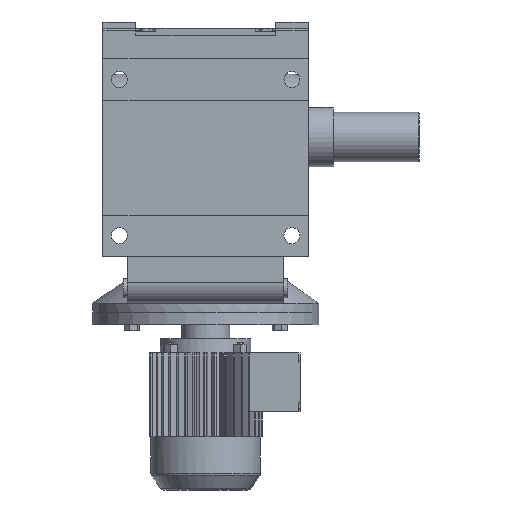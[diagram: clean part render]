
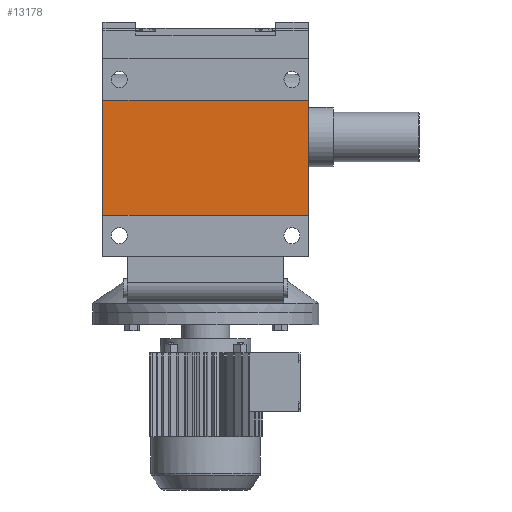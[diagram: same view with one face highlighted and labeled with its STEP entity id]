
A CAD part, front view. The second image highlights one B-rep face of the part: STEP entity #13178.
In plain terms, the highlighted planar face has unit normal (0, -1, 0).
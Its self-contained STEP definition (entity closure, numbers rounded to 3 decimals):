
#1891 = PLANE('',#1892);
#1892 = AXIS2_PLACEMENT_3D('',#1893,#1894,#1895);
#1893 = CARTESIAN_POINT('',(-250.,-379.25,225.));
#1894 = DIRECTION('',(1.,0.,0.));
#1895 = DIRECTION('',(0.,0.,-1.));
#4476 = PLANE('',#4477);
#4477 = AXIS2_PLACEMENT_3D('',#4478,#4479,#4480);
#4478 = CARTESIAN_POINT('',(250.,-379.25,225.));
#4479 = DIRECTION('',(1.,0.,0.));
#4480 = DIRECTION('',(0.,0.,-1.));
#6165 = VERTEX_POINT('',#6166);
#6166 = CARTESIAN_POINT('',(-250.,-434.25,-190.));
#6180 = PLANE('',#6181);
#6181 = AXIS2_PLACEMENT_3D('',#6182,#6183,#6184);
#6182 = CARTESIAN_POINT('',(250.,-434.25,-190.));
#6183 = DIRECTION('',(0.,0.,-1.));
#6184 = DIRECTION('',(-1.,0.,0.));
#6192 = EDGE_CURVE('',#6193,#6165,#6195,.T.);
#6193 = VERTEX_POINT('',#6194);
#6194 = CARTESIAN_POINT('',(-250.,-434.25,90.));
#6195 = SURFACE_CURVE('',#6196,(#6200,#6207),.PCURVE_S1.);
#6196 = LINE('',#6197,#6198);
#6197 = CARTESIAN_POINT('',(-250.,-434.25,90.));
#6198 = VECTOR('',#6199,1.);
#6199 = DIRECTION('',(0.,0.,-1.));
#6200 = PCURVE('',#1891,#6201);
#6201 = DEFINITIONAL_REPRESENTATION('',(#6202),#6206);
#6202 = LINE('',#6203,#6204);
#6203 = CARTESIAN_POINT('',(135.,-55.));
#6204 = VECTOR('',#6205,1.);
#6205 = DIRECTION('',(1.,0.));
#6206 = ( GEOMETRIC_REPRESENTATION_CONTEXT(2) 
PARAMETRIC_REPRESENTATION_CONTEXT() REPRESENTATION_CONTEXT('2D SPACE',''
  ) );
#6207 = PCURVE('',#6208,#6213);
#6208 = PLANE('',#6209);
#6209 = AXIS2_PLACEMENT_3D('',#6210,#6211,#6212);
#6210 = CARTESIAN_POINT('',(190.5,-434.25,230.));
#6211 = DIRECTION('',(0.,1.,0.));
#6212 = DIRECTION('',(0.,0.,1.));
#6213 = DEFINITIONAL_REPRESENTATION('',(#6214),#6218);
#6214 = LINE('',#6215,#6216);
#6215 = CARTESIAN_POINT('',(-140.,-440.5));
#6216 = VECTOR('',#6217,1.);
#6217 = DIRECTION('',(-1.,0.));
#6218 = ( GEOMETRIC_REPRESENTATION_CONTEXT(2) 
PARAMETRIC_REPRESENTATION_CONTEXT() REPRESENTATION_CONTEXT('2D SPACE',''
  ) );
#6236 = PLANE('',#6237);
#6237 = AXIS2_PLACEMENT_3D('',#6238,#6239,#6240);
#6238 = CARTESIAN_POINT('',(250.,-434.25,90.));
#6239 = DIRECTION('',(0.,0.,1.));
#6240 = DIRECTION('',(1.,0.,0.));
#10475 = VERTEX_POINT('',#10476);
#10476 = CARTESIAN_POINT('',(250.,-434.25,90.));
#10497 = EDGE_CURVE('',#10475,#10498,#10500,.T.);
#10498 = VERTEX_POINT('',#10499);
#10499 = CARTESIAN_POINT('',(250.,-434.25,-190.));
#10500 = SURFACE_CURVE('',#10501,(#10505,#10512),.PCURVE_S1.);
#10501 = LINE('',#10502,#10503);
#10502 = CARTESIAN_POINT('',(250.,-434.25,90.));
#10503 = VECTOR('',#10504,1.);
#10504 = DIRECTION('',(0.,0.,-1.));
#10505 = PCURVE('',#4476,#10506);
#10506 = DEFINITIONAL_REPRESENTATION('',(#10507),#10511);
#10507 = LINE('',#10508,#10509);
#10508 = CARTESIAN_POINT('',(135.,-55.));
#10509 = VECTOR('',#10510,1.);
#10510 = DIRECTION('',(1.,0.));
#10511 = ( GEOMETRIC_REPRESENTATION_CONTEXT(2) 
PARAMETRIC_REPRESENTATION_CONTEXT() REPRESENTATION_CONTEXT('2D SPACE',''
  ) );
#10512 = PCURVE('',#6208,#10513);
#10513 = DEFINITIONAL_REPRESENTATION('',(#10514),#10518);
#10514 = LINE('',#10515,#10516);
#10515 = CARTESIAN_POINT('',(-140.,59.5));
#10516 = VECTOR('',#10517,1.);
#10517 = DIRECTION('',(-1.,0.));
#10518 = ( GEOMETRIC_REPRESENTATION_CONTEXT(2) 
PARAMETRIC_REPRESENTATION_CONTEXT() REPRESENTATION_CONTEXT('2D SPACE',''
  ) );
#13109 = EDGE_CURVE('',#10498,#6165,#13110,.T.);
#13110 = SURFACE_CURVE('',#13111,(#13115,#13122),.PCURVE_S1.);
#13111 = LINE('',#13112,#13113);
#13112 = CARTESIAN_POINT('',(250.,-434.25,-190.));
#13113 = VECTOR('',#13114,1.);
#13114 = DIRECTION('',(-1.,0.,0.));
#13115 = PCURVE('',#6180,#13116);
#13116 = DEFINITIONAL_REPRESENTATION('',(#13117),#13121);
#13117 = LINE('',#13118,#13119);
#13118 = CARTESIAN_POINT('',(0.,0.));
#13119 = VECTOR('',#13120,1.);
#13120 = DIRECTION('',(1.,0.));
#13121 = ( GEOMETRIC_REPRESENTATION_CONTEXT(2) 
PARAMETRIC_REPRESENTATION_CONTEXT() REPRESENTATION_CONTEXT('2D SPACE',''
  ) );
#13122 = PCURVE('',#6208,#13123);
#13123 = DEFINITIONAL_REPRESENTATION('',(#13124),#13128);
#13124 = LINE('',#13125,#13126);
#13125 = CARTESIAN_POINT('',(-420.,59.5));
#13126 = VECTOR('',#13127,1.);
#13127 = DIRECTION('',(0.,-1.));
#13128 = ( GEOMETRIC_REPRESENTATION_CONTEXT(2) 
PARAMETRIC_REPRESENTATION_CONTEXT() REPRESENTATION_CONTEXT('2D SPACE',''
  ) );
#13178 = ADVANCED_FACE('',(#13179),#6208,.F.);
#13179 = FACE_BOUND('',#13180,.T.);
#13180 = EDGE_LOOP('',(#13181,#13202,#13203,#13204));
#13181 = ORIENTED_EDGE('',*,*,#13182,.T.);
#13182 = EDGE_CURVE('',#10475,#6193,#13183,.T.);
#13183 = SURFACE_CURVE('',#13184,(#13188,#13195),.PCURVE_S1.);
#13184 = LINE('',#13185,#13186);
#13185 = CARTESIAN_POINT('',(250.,-434.25,90.));
#13186 = VECTOR('',#13187,1.);
#13187 = DIRECTION('',(-1.,0.,0.));
#13188 = PCURVE('',#6208,#13189);
#13189 = DEFINITIONAL_REPRESENTATION('',(#13190),#13194);
#13190 = LINE('',#13191,#13192);
#13191 = CARTESIAN_POINT('',(-140.,59.5));
#13192 = VECTOR('',#13193,1.);
#13193 = DIRECTION('',(0.,-1.));
#13194 = ( GEOMETRIC_REPRESENTATION_CONTEXT(2) 
PARAMETRIC_REPRESENTATION_CONTEXT() REPRESENTATION_CONTEXT('2D SPACE',''
  ) );
#13195 = PCURVE('',#6236,#13196);
#13196 = DEFINITIONAL_REPRESENTATION('',(#13197),#13201);
#13197 = LINE('',#13198,#13199);
#13198 = CARTESIAN_POINT('',(0.,0.));
#13199 = VECTOR('',#13200,1.);
#13200 = DIRECTION('',(-1.,0.));
#13201 = ( GEOMETRIC_REPRESENTATION_CONTEXT(2) 
PARAMETRIC_REPRESENTATION_CONTEXT() REPRESENTATION_CONTEXT('2D SPACE',''
  ) );
#13202 = ORIENTED_EDGE('',*,*,#6192,.T.);
#13203 = ORIENTED_EDGE('',*,*,#13109,.F.);
#13204 = ORIENTED_EDGE('',*,*,#10497,.F.);
